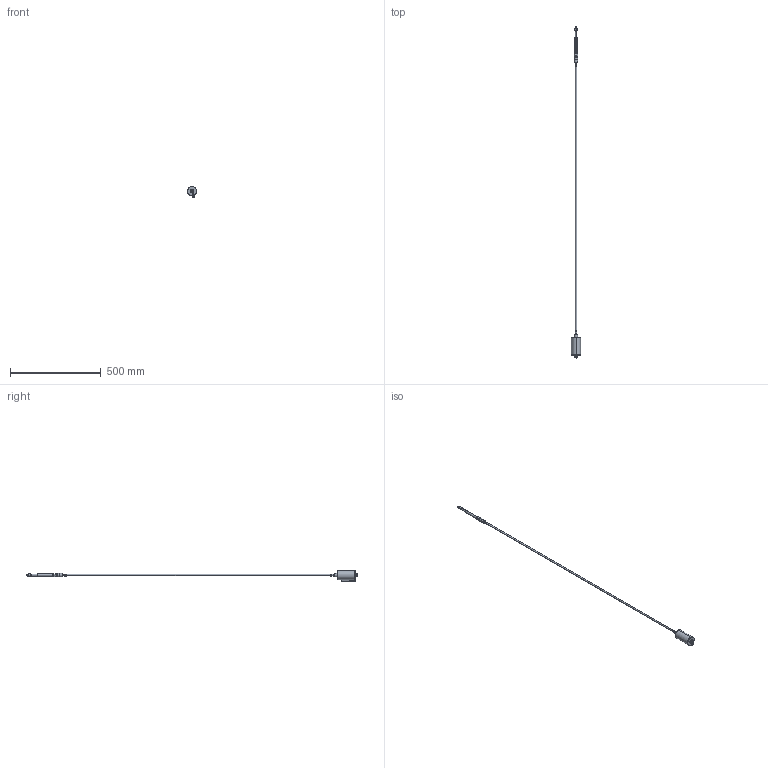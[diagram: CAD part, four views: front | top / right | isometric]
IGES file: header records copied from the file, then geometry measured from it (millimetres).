
Start section: SolidWorks IGES file using analytic representation for surfaces
Global section: file name: C:\Users\daniele.peli\Desktop\HIX1-S-6-H-M35U-1-4-K-S-0-6-G04.IGS; native system: SolidWorks 2021; preprocessor: SolidWorks 2021; author: daniele.peli; date: 210211.103012; units: millimetre
Bounding box: 49.98 x 1830.6 x 60.15 mm (x, y, z)
Surface area: 71369.2 mm2 (no closed solid volume)
Topology: 0 solids, 0 shells, 149 faces, 2214 edges, 2214 vertices
Faces by surface type: revolution 96, bspline 53
